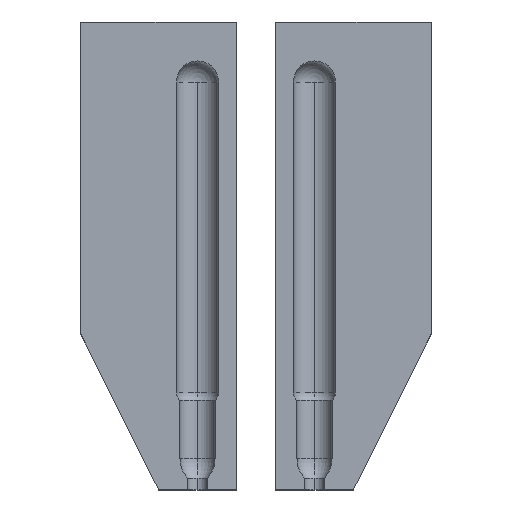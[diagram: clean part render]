
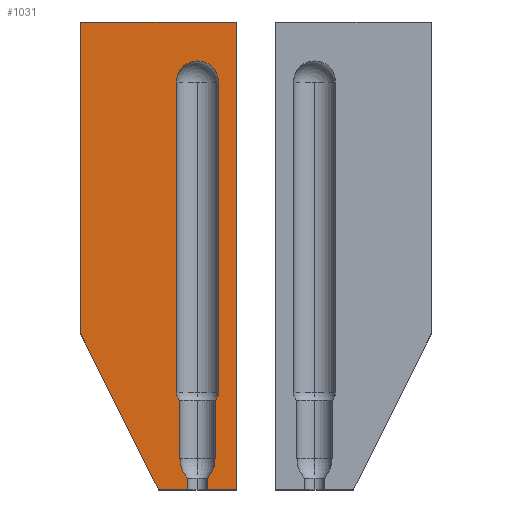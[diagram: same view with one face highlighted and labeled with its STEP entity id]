
A CAD part, top view. The second image highlights one B-rep face of the part: STEP entity #1031.
In plain terms, the highlighted planar face has unit normal (0, 0, 1).
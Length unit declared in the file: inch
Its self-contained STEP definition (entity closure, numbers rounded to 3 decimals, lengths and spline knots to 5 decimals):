
#3 = CARTESIAN_POINT ( 'NONE',  ( 0.23, 1.24605, 0.625 ) ) ;
#11 = DIRECTION ( 'NONE',  ( 0., 1., 0. ) ) ;
#12 = VECTOR ( 'NONE', #689, 39.37008 ) ;
#14 = DIRECTION ( 'NONE',  ( 1., 0., 0. ) ) ;
#19 = EDGE_CURVE ( 'NONE', #522, #481, #427, .T. ) ;
#27 = DIRECTION ( 'NONE',  ( 0., 0., -1. ) ) ;
#32 = EDGE_LOOP ( 'NONE', ( #855, #123, #256, #147, #742, #829, #497, #779, #370, #549, #840, #929, #257, #805, #369, #930, #146 ) ) ;
#49 = EDGE_CURVE ( 'NONE', #729, #748, #457, .T. ) ;
#57 = VECTOR ( 'NONE', #14, 39.37008 ) ;
#86 = CARTESIAN_POINT ( 'NONE',  ( 0.77, 1.24605, 0.625 ) ) ;
#88 = DIRECTION ( 'NONE',  ( 0., 1., 0. ) ) ;
#105 = CIRCLE ( 'NONE', #262, 0.125 ) ;
#123 = ORIENTED_EDGE ( 'NONE', *, *, #19, .F. ) ;
#126 = VECTOR ( 'NONE', #898, 39.37008 ) ;
#128 = EDGE_CURVE ( 'NONE', #839, #760, #615, .T. ) ;
#134 = VECTOR ( 'NONE', #88, 39.37008 ) ;
#137 = FACE_OUTER_BOUND ( 'NONE', #32, .T. ) ;
#142 = CARTESIAN_POINT ( 'NONE',  ( 0.275, 0., 0.625 ) ) ;
#146 = ORIENTED_EDGE ( 'NONE', *, *, #837, .T. ) ;
#147 = ORIENTED_EDGE ( 'NONE', *, *, #351, .T. ) ;
#149 = LINE ( 'NONE', #142, #411 ) ;
#168 = VECTOR ( 'NONE', #362, 39.37008 ) ;
#182 = CARTESIAN_POINT ( 'NONE',  ( 1., 6., 0.625 ) ) ;
#186 = CARTESIAN_POINT ( 'NONE',  ( -1., 6., 0.625 ) ) ;
#189 = EDGE_CURVE ( 'NONE', #982, #465, #201, .T. ) ;
#190 = CARTESIAN_POINT ( 'NONE',  ( 0.375, 0., 0.625 ) ) ;
#201 = LINE ( 'NONE', #254, #973 ) ;
#204 = EDGE_CURVE ( 'NONE', #361, #452, #758, .T. ) ;
#222 = EDGE_CURVE ( 'NONE', #481, #320, #1023, .T. ) ;
#233 = CARTESIAN_POINT ( 'NONE',  ( 1., 0., 0.625 ) ) ;
#254 = CARTESIAN_POINT ( 'NONE',  ( 0.725, 0., 0.625 ) ) ;
#256 = ORIENTED_EDGE ( 'NONE', *, *, #637, .F. ) ;
#257 = ORIENTED_EDGE ( 'NONE', *, *, #700, .T. ) ;
#262 = AXIS2_PLACEMENT_3D ( 'NONE', #474, #27, #504 ) ;
#285 = CARTESIAN_POINT ( 'NONE',  ( 0., 0., 0.625 ) ) ;
#296 = VERTEX_POINT ( 'NONE', #924 ) ;
#300 = EDGE_CURVE ( 'NONE', #729, #465, #710, .T. ) ;
#320 = VERTEX_POINT ( 'NONE', #568 ) ;
#329 = CARTESIAN_POINT ( 'NONE',  ( 0.5, 5.23, 0.625 ) ) ;
#330 = DIRECTION ( 'NONE',  ( 0., -1., 0. ) ) ;
#340 = CARTESIAN_POINT ( 'NONE',  ( 0., 0., 0.625 ) ) ;
#344 = CARTESIAN_POINT ( 'NONE',  ( 0.77, 0., 0.625 ) ) ;
#351 = EDGE_CURVE ( 'NONE', #572, #760, #105, .T. ) ;
#361 = VERTEX_POINT ( 'NONE', #468 ) ;
#362 = DIRECTION ( 'NONE',  ( 1., 0., 0. ) ) ;
#367 = CARTESIAN_POINT ( 'NONE',  ( 0., 0., 0.625 ) ) ;
#369 = ORIENTED_EDGE ( 'NONE', *, *, #204, .T. ) ;
#370 = ORIENTED_EDGE ( 'NONE', *, *, #189, .F. ) ;
#375 = CARTESIAN_POINT ( 'NONE',  ( 1., 0., 0.625 ) ) ;
#379 = CARTESIAN_POINT ( 'NONE',  ( 0.645, 1.24605, 0.625 ) ) ;
#402 = CARTESIAN_POINT ( 'NONE',  ( 0.375, 0.15, 0.625 ) ) ;
#411 = VECTOR ( 'NONE', #330, 39.37008 ) ;
#427 = CIRCLE ( 'NONE', #1083, 0.3625 ) ;
#452 = VERTEX_POINT ( 'NONE', #488 ) ;
#455 = CARTESIAN_POINT ( 'NONE',  ( 0.625, 0., 0.625 ) ) ;
#457 = LINE ( 'NONE', #344, #1093 ) ;
#465 = VERTEX_POINT ( 'NONE', #761 ) ;
#468 = CARTESIAN_POINT ( 'NONE',  ( -1., 6., 0.625 ) ) ;
#474 = CARTESIAN_POINT ( 'NONE',  ( 0.355, 1.24605, 0.625 ) ) ;
#477 = AXIS2_PLACEMENT_3D ( 'NONE', #1046, #516, #1130 ) ;
#481 = VERTEX_POINT ( 'NONE', #402 ) ;
#488 = CARTESIAN_POINT ( 'NONE',  ( -1., 2., 0.625 ) ) ;
#497 = ORIENTED_EDGE ( 'NONE', *, *, #49, .F. ) ;
#504 = DIRECTION ( 'NONE',  ( 1., 0., 0. ) ) ;
#507 = CARTESIAN_POINT ( 'NONE',  ( 0.725, 0.4, 0.625 ) ) ;
#515 = DIRECTION ( 'NONE',  ( 0., 0., 1. ) ) ;
#516 = DIRECTION ( 'NONE',  ( 0., 0., 1. ) ) ;
#522 = VERTEX_POINT ( 'NONE', #1098 ) ;
#528 = VECTOR ( 'NONE', #789, 39.37008 ) ;
#532 = LINE ( 'NONE', #182, #12 ) ;
#542 = CARTESIAN_POINT ( 'NONE',  ( 0.23, 0., 0.625 ) ) ;
#549 = ORIENTED_EDGE ( 'NONE', *, *, #643, .F. ) ;
#558 = CARTESIAN_POINT ( 'NONE',  ( 0.625, 0., 0.625 ) ) ;
#559 = DIRECTION ( 'NONE',  ( 0., 0., -1. ) ) ;
#568 = CARTESIAN_POINT ( 'NONE',  ( 0.375, 0., 0.625 ) ) ;
#572 = VERTEX_POINT ( 'NONE', #866 ) ;
#582 = LINE ( 'NONE', #1087, #57 ) ;
#598 = CARTESIAN_POINT ( 'NONE',  ( 0.625, 0.15, 0.625 ) ) ;
#615 = LINE ( 'NONE', #542, #126 ) ;
#634 = LINE ( 'NONE', #375, #134 ) ;
#637 = EDGE_CURVE ( 'NONE', #572, #522, #149, .T. ) ;
#643 = EDGE_CURVE ( 'NONE', #651, #982, #951, .T. ) ;
#649 = VECTOR ( 'NONE', #806, 39.37008 ) ;
#651 = VERTEX_POINT ( 'NONE', #598 ) ;
#689 = DIRECTION ( 'NONE',  ( -1., 0., 0. ) ) ;
#691 = DIRECTION ( 'NONE',  ( 1., 0., 0. ) ) ;
#700 = EDGE_CURVE ( 'NONE', #1014, #296, #634, .T. ) ;
#710 = CIRCLE ( 'NONE', #1056, 0.125 ) ;
#718 = EDGE_CURVE ( 'NONE', #452, #847, #908, .T. ) ;
#721 = CARTESIAN_POINT ( 'NONE',  ( 0.77, 5.23, 0.625 ) ) ;
#729 = VERTEX_POINT ( 'NONE', #86 ) ;
#742 = ORIENTED_EDGE ( 'NONE', *, *, #128, .F. ) ;
#748 = VERTEX_POINT ( 'NONE', #721 ) ;
#758 = LINE ( 'NONE', #186, #528 ) ;
#759 = DIRECTION ( 'NONE',  ( 0., 0., 1. ) ) ;
#760 = VERTEX_POINT ( 'NONE', #3 ) ;
#761 = CARTESIAN_POINT ( 'NONE',  ( 0.725, 1.15, 0.625 ) ) ;
#770 = DIRECTION ( 'NONE',  ( 1., 0., 0. ) ) ;
#776 = DIRECTION ( 'NONE',  ( 1., 0., 0. ) ) ;
#779 = ORIENTED_EDGE ( 'NONE', *, *, #300, .T. ) ;
#789 = DIRECTION ( 'NONE',  ( 0., -1., 0. ) ) ;
#805 = ORIENTED_EDGE ( 'NONE', *, *, #1078, .T. ) ;
#806 = DIRECTION ( 'NONE',  ( 0., -1., 0. ) ) ;
#807 = AXIS2_PLACEMENT_3D ( 'NONE', #329, #759, #770 ) ;
#816 = EDGE_CURVE ( 'NONE', #1116, #651, #844, .T. ) ;
#818 = AXIS2_PLACEMENT_3D ( 'NONE', #367, #515, #691 ) ;
#829 = ORIENTED_EDGE ( 'NONE', *, *, #1008, .F. ) ;
#837 = EDGE_CURVE ( 'NONE', #847, #320, #582, .T. ) ;
#839 = VERTEX_POINT ( 'NONE', #920 ) ;
#840 = ORIENTED_EDGE ( 'NONE', *, *, #816, .F. ) ;
#844 = LINE ( 'NONE', #558, #1124 ) ;
#847 = VERTEX_POINT ( 'NONE', #285 ) ;
#855 = ORIENTED_EDGE ( 'NONE', *, *, #222, .F. ) ;
#866 = CARTESIAN_POINT ( 'NONE',  ( 0.275, 1.15, 0.625 ) ) ;
#868 = CARTESIAN_POINT ( 'NONE',  ( 0.6375, 0.4, 0.625 ) ) ;
#885 = LINE ( 'NONE', #340, #168 ) ;
#891 = CARTESIAN_POINT ( 'NONE',  ( -1., 2., 0.625 ) ) ;
#893 = DIRECTION ( 'NONE',  ( 0.447, -0.894, 0. ) ) ;
#898 = DIRECTION ( 'NONE',  ( 0., -1., 0. ) ) ;
#908 = LINE ( 'NONE', #891, #1070 ) ;
#911 = DIRECTION ( 'NONE',  ( 1., 0., 0. ) ) ;
#916 = DIRECTION ( 'NONE',  ( 0., 1., 0. ) ) ;
#920 = CARTESIAN_POINT ( 'NONE',  ( 0.23, 5.23, 0.625 ) ) ;
#924 = CARTESIAN_POINT ( 'NONE',  ( 1., 6., 0.625 ) ) ;
#929 = ORIENTED_EDGE ( 'NONE', *, *, #1112, .T. ) ;
#930 = ORIENTED_EDGE ( 'NONE', *, *, #718, .T. ) ;
#951 = CIRCLE ( 'NONE', #477, 0.3625 ) ;
#954 = DIRECTION ( 'NONE',  ( 0., 1., 0. ) ) ;
#973 = VECTOR ( 'NONE', #11, 39.37008 ) ;
#982 = VERTEX_POINT ( 'NONE', #507 ) ;
#985 = PLANE ( 'NONE',  #818 ) ;
#1008 = EDGE_CURVE ( 'NONE', #748, #839, #1145, .T. ) ;
#1014 = VERTEX_POINT ( 'NONE', #233 ) ;
#1023 = LINE ( 'NONE', #190, #649 ) ;
#1031 = ADVANCED_FACE ( 'NONE', ( #137 ), #985, .T. ) ;
#1046 = CARTESIAN_POINT ( 'NONE',  ( 0.3625, 0.4, 0.625 ) ) ;
#1056 = AXIS2_PLACEMENT_3D ( 'NONE', #379, #559, #911 ) ;
#1070 = VECTOR ( 'NONE', #893, 39.37008 ) ;
#1078 = EDGE_CURVE ( 'NONE', #296, #361, #532, .T. ) ;
#1083 = AXIS2_PLACEMENT_3D ( 'NONE', #868, #1123, #776 ) ;
#1087 = CARTESIAN_POINT ( 'NONE',  ( 0., 0., 0.625 ) ) ;
#1093 = VECTOR ( 'NONE', #954, 39.37008 ) ;
#1098 = CARTESIAN_POINT ( 'NONE',  ( 0.275, 0.4, 0.625 ) ) ;
#1112 = EDGE_CURVE ( 'NONE', #1116, #1014, #885, .T. ) ;
#1116 = VERTEX_POINT ( 'NONE', #455 ) ;
#1123 = DIRECTION ( 'NONE',  ( 0., 0., 1. ) ) ;
#1124 = VECTOR ( 'NONE', #916, 39.37008 ) ;
#1130 = DIRECTION ( 'NONE',  ( 1., 0., 0. ) ) ;
#1145 = CIRCLE ( 'NONE', #807, 0.27 ) ;
